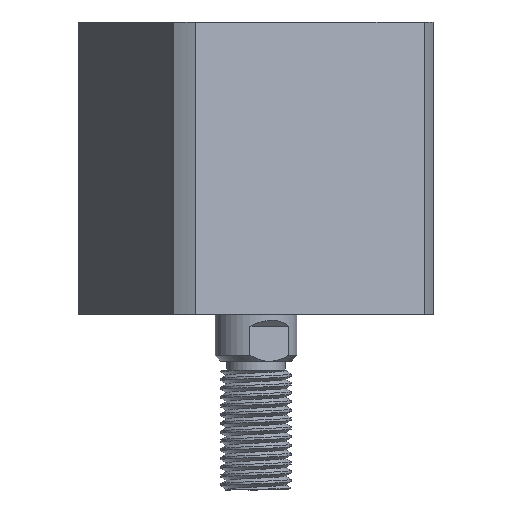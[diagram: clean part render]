
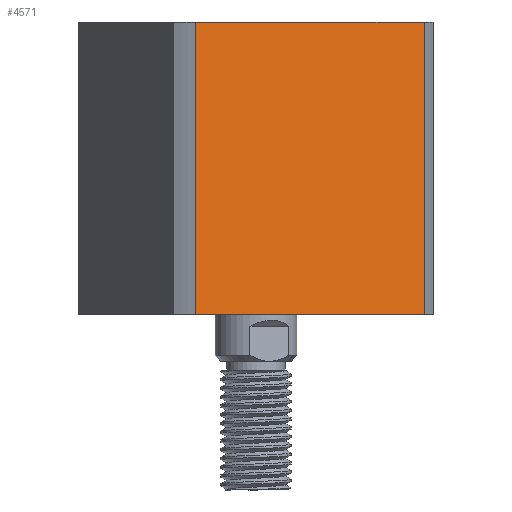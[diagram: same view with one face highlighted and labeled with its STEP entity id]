
A CAD part, left-side view. The second image highlights one B-rep face of the part: STEP entity #4571.
In plain terms, the highlighted planar face has unit normal (-0.924, -0.383, 0) as drawn and (1, 0, 0) by its records, which use the part's own axes.
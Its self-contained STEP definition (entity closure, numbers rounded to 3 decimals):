
#340 = CARTESIAN_POINT ( 'NONE',  ( 24., 24., 50. ) ) ;
#446 = FACE_OUTER_BOUND ( 'NONE', #8341, .T. ) ;
#628 = ORIENTED_EDGE ( 'NONE', *, *, #2152, .F. ) ;
#635 = CARTESIAN_POINT ( 'NONE',  ( 24., 24., 50. ) ) ;
#639 = CARTESIAN_POINT ( 'NONE',  ( 24., -21.166, 50. ) ) ;
#1255 = LINE ( 'NONE', #340, #5645 ) ;
#1907 = VERTEX_POINT ( 'NONE', #639 ) ;
#2152 = EDGE_CURVE ( 'NONE', #3311, #9285, #9997, .T. ) ;
#2399 = EDGE_CURVE ( 'NONE', #1907, #3311, #1255, .T. ) ;
#3099 = CARTESIAN_POINT ( 'NONE',  ( 24., 21.166, 0. ) ) ;
#3203 = DIRECTION ( 'NONE',  ( -1., 0., 0. ) ) ;
#3211 = VECTOR ( 'NONE', #7349, 1000. ) ;
#3286 = VECTOR ( 'NONE', #9234, 1000. ) ;
#3311 = VERTEX_POINT ( 'NONE', #8342 ) ;
#3346 = VECTOR ( 'NONE', #4140, 1000. ) ;
#3487 = LINE ( 'NONE', #8190, #3211 ) ;
#3946 = AXIS2_PLACEMENT_3D ( 'NONE', #635, #3203, #9018 ) ;
#4140 = DIRECTION ( 'NONE',  ( 0., 0., -1. ) ) ;
#4247 = CARTESIAN_POINT ( 'NONE',  ( 24., 24., 0. ) ) ;
#4559 = ORIENTED_EDGE ( 'NONE', *, *, #10383, .T. ) ;
#4571 = ADVANCED_FACE ( 'NONE', ( #446 ), #8159, .F. ) ;
#5645 = VECTOR ( 'NONE', #10290, 1000. ) ;
#5811 = CARTESIAN_POINT ( 'NONE',  ( 24., 21.166, -250. ) ) ;
#7349 = DIRECTION ( 'NONE',  ( 0., 0., 1. ) ) ;
#7781 = ORIENTED_EDGE ( 'NONE', *, *, #2399, .F. ) ;
#8159 = PLANE ( 'NONE',  #3946 ) ;
#8190 = CARTESIAN_POINT ( 'NONE',  ( 24., -21.166, -250. ) ) ;
#8328 = EDGE_CURVE ( 'NONE', #8684, #1907, #3487, .T. ) ;
#8341 = EDGE_LOOP ( 'NONE', ( #8456, #4559, #628, #7781 ) ) ;
#8342 = CARTESIAN_POINT ( 'NONE',  ( 24., 21.166, 50. ) ) ;
#8456 = ORIENTED_EDGE ( 'NONE', *, *, #8328, .F. ) ;
#8684 = VERTEX_POINT ( 'NONE', #10228 ) ;
#9018 = DIRECTION ( 'NONE',  ( 0., -1., 0. ) ) ;
#9234 = DIRECTION ( 'NONE',  ( 0., 1., 0. ) ) ;
#9285 = VERTEX_POINT ( 'NONE', #3099 ) ;
#9936 = LINE ( 'NONE', #4247, #3286 ) ;
#9997 = LINE ( 'NONE', #5811, #3346 ) ;
#10228 = CARTESIAN_POINT ( 'NONE',  ( 24., -21.166, 0. ) ) ;
#10290 = DIRECTION ( 'NONE',  ( 0., 1., 0. ) ) ;
#10383 = EDGE_CURVE ( 'NONE', #8684, #9285, #9936, .T. ) ;
